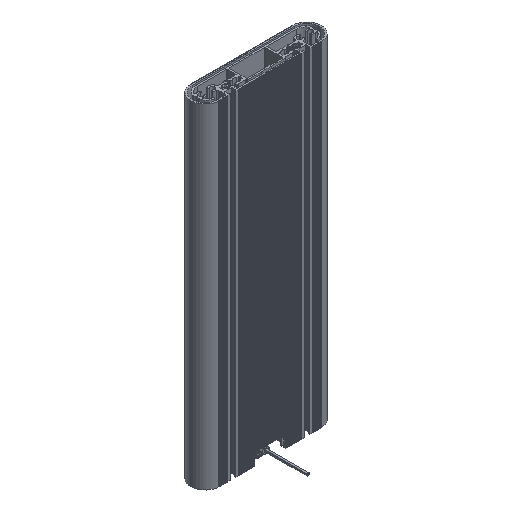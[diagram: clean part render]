
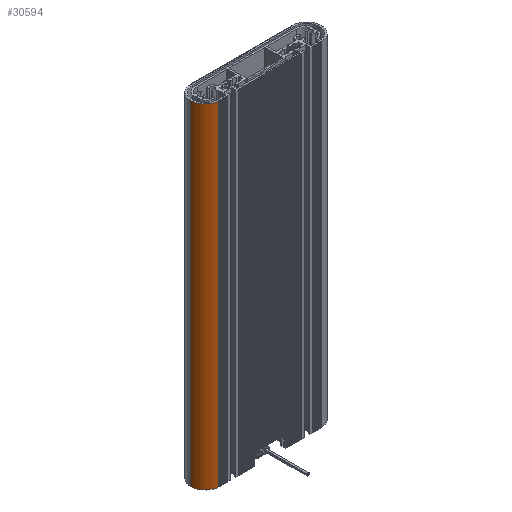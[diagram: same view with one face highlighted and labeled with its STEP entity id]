
A CAD part, isometric view. The second image highlights one B-rep face of the part: STEP entity #30594.
In plain terms, the highlighted cylindrical face has radius 21.247 mm (diameter 42.494 mm), a partial arc.
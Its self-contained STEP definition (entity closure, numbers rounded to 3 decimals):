
#2487 = DIRECTION ( 'NONE',  ( 1., 0., 0. ) ) ;
#3578 = VECTOR ( 'NONE', #32843, 1000. ) ;
#3958 = ORIENTED_EDGE ( 'NONE', *, *, #6710, .T. ) ;
#5155 = CARTESIAN_POINT ( 'NONE',  ( -61.773, 14.924, 82.222 ) ) ;
#6523 = CYLINDRICAL_SURFACE ( 'NONE', #26672, 21.247 ) ;
#6710 = EDGE_CURVE ( 'NONE', #33366, #18468, #21718, .T. ) ;
#9079 = EDGE_LOOP ( 'NONE', ( #18625, #31970, #3958, #29897 ) ) ;
#9098 = CARTESIAN_POINT ( 'NONE',  ( -83.02, 14.924, -417.778 ) ) ;
#10104 = CARTESIAN_POINT ( 'NONE',  ( -83.02, 14.924, 82.222 ) ) ;
#11825 = CARTESIAN_POINT ( 'NONE',  ( -62.371, -6.314, -167.778 ) ) ;
#12199 = DIRECTION ( 'NONE',  ( 0., 0., -1. ) ) ;
#15202 = VECTOR ( 'NONE', #31138, 1000. ) ;
#16972 = FACE_OUTER_BOUND ( 'NONE', #9079, .T. ) ;
#18468 = VERTEX_POINT ( 'NONE', #24575 ) ;
#18625 = ORIENTED_EDGE ( 'NONE', *, *, #31385, .F. ) ;
#19332 = CARTESIAN_POINT ( 'NONE',  ( -61.773, 14.924, -417.778 ) ) ;
#19690 = CIRCLE ( 'NONE', #43703, 21.247 ) ;
#21718 = CIRCLE ( 'NONE', #41072, 21.247 ) ;
#22888 = DIRECTION ( 'NONE',  ( 1., 0., 0. ) ) ;
#23205 = VERTEX_POINT ( 'NONE', #42526 ) ;
#23526 = DIRECTION ( 'NONE',  ( 0., 0., 1. ) ) ;
#24575 = CARTESIAN_POINT ( 'NONE',  ( -62.371, -6.314, -417.778 ) ) ;
#26672 = AXIS2_PLACEMENT_3D ( 'NONE', #5155, #12199, #40132 ) ;
#28132 = VERTEX_POINT ( 'NONE', #31703 ) ;
#29897 = ORIENTED_EDGE ( 'NONE', *, *, #45061, .F. ) ;
#30594 = ADVANCED_FACE ( 'NONE', ( #16972 ), #6523, .T. ) ;
#31138 = DIRECTION ( 'NONE',  ( 0., 0., -1. ) ) ;
#31385 = EDGE_CURVE ( 'NONE', #23205, #28132, #19690, .T. ) ;
#31703 = CARTESIAN_POINT ( 'NONE',  ( -62.371, -6.314, 82.222 ) ) ;
#31970 = ORIENTED_EDGE ( 'NONE', *, *, #43767, .T. ) ;
#32843 = DIRECTION ( 'NONE',  ( 0., 0., -1. ) ) ;
#33366 = VERTEX_POINT ( 'NONE', #9098 ) ;
#33875 = LINE ( 'NONE', #10104, #15202 ) ;
#39828 = LINE ( 'NONE', #11825, #3578 ) ;
#40132 = DIRECTION ( 'NONE',  ( -1., 0., 0. ) ) ;
#41072 = AXIS2_PLACEMENT_3D ( 'NONE', #19332, #43872, #22888 ) ;
#42526 = CARTESIAN_POINT ( 'NONE',  ( -83.02, 14.924, 82.222 ) ) ;
#43703 = AXIS2_PLACEMENT_3D ( 'NONE', #44525, #23526, #2487 ) ;
#43767 = EDGE_CURVE ( 'NONE', #23205, #33366, #33875, .T. ) ;
#43872 = DIRECTION ( 'NONE',  ( 0., 0., 1. ) ) ;
#44525 = CARTESIAN_POINT ( 'NONE',  ( -61.773, 14.924, 82.222 ) ) ;
#45061 = EDGE_CURVE ( 'NONE', #28132, #18468, #39828, .T. ) ;
